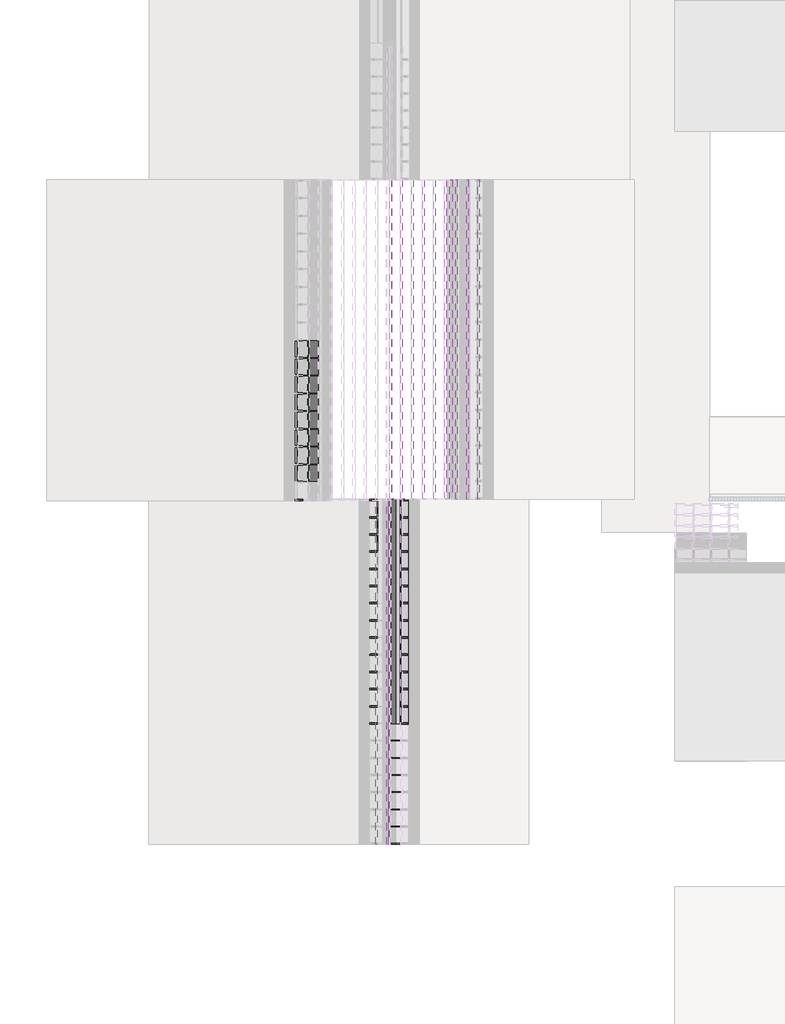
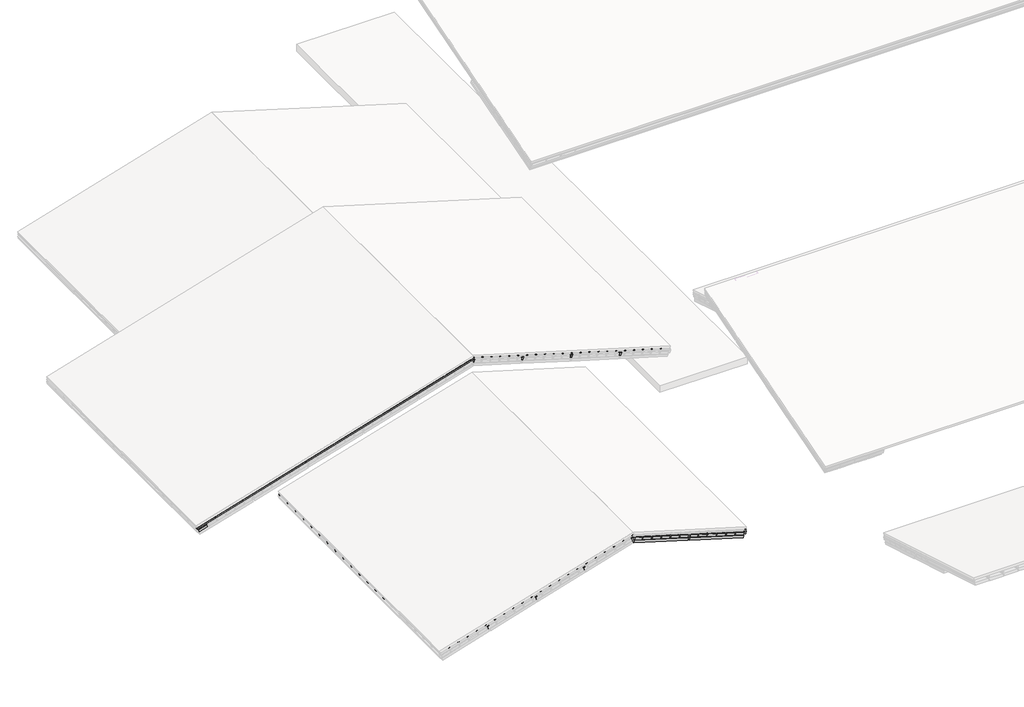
# One storey, part 3 of 57: 82 members, 39 plates.
"""IFC4 building model written with IfcOpenShell, lengths in millimetres."""

from ifc_helpers import new_model, si_unit, origin, place, context, project, spatial, transform, mapped, element, save
from components import rectangular_mullion_a55b3314, rectangular_mullion_570d728c, rectangular_mullion_ac45dcca, rectangular_mullion_e3c31ba7, rectangular_mullion_b5bf8cd6, rectangular_mullion_75f7635b, rectangular_mullion_407ae3eb, rectangular_mullion_b8d70239, rectangular_mullion_caibro_ed0dafb1, rectangular_mullion_caibro_0a25a9c4, rectangular_mullion_caibro_b547574d, rectangular_mullion_caibro_cfc8c254, rectangular_mullion_caibro_4571a72a, empty_system_panel_vazio_568114d9, empty_system_panel_vazio_96ce973a, empty_system_panel_vazio_2a3f5358, empty_system_panel_vazio_2e425c68, empty_system_panel_vazio_b4c02b83, empty_system_panel_vazio_a9f1091a

model = new_model("IFC4")

# Units and contexts
model_context = context("Model", 3, world=origin())
ifc_project = project(units=[si_unit("LENGTHUNIT", "METRE", prefix="MILLI")], contexts=[model_context])

# Site, building, storey
site = spatial("IfcSite", under=ifc_project)
building = spatial("IfcBuilding", under=site)
storey = spatial("IfcBuildingStorey", under=building, Name="Nível 2", Elevation=4100.0)

# Members
placement = place(None, origin())
rectangular_mullion_shape = rectangular_mullion_a55b3314(model_context)
element("IfcMember", 1, ObjectType="Rectangular Mullion : Ripa", at=placement, inside=storey, context=model_context, shape_type="MappedRepresentation", body=[
    mapped(rectangular_mullion_shape, transform((-15339.5650098, 15690.170769, 3155.4065135), x_axis=(0.9578262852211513, 0.0, 0.2873478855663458), y_axis=(0.2873478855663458, 0.0, -0.9578262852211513), z_axis=(0.0, 1.0, 0.0))),
])
element("IfcMember", 2, ObjectType="Rectangular Mullion : Ripa", at=placement, inside=storey, context=model_context, shape_type="MappedRepresentation", body=[
    mapped(rectangular_mullion_shape, transform((-14962.2614909, 15690.170769, 3268.5975692), x_axis=(0.9578262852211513, 0.0, 0.2873478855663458), y_axis=(0.2873478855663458, 0.0, -0.9578262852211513), z_axis=(0.0, 1.0, 0.0))),
])
element("IfcMember", 3, ObjectType="Rectangular Mullion : Ripa", at=placement, inside=storey, context=model_context, shape_type="MappedRepresentation", body=[
    mapped(rectangular_mullion_shape, transform((-14584.957972, 15690.170769, 3381.7886249), x_axis=(0.9578262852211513, 0.0, 0.2873478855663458), y_axis=(0.2873478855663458, 0.0, -0.9578262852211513), z_axis=(0.0, 1.0, 0.0))),
])
element("IfcMember", 4, ObjectType="Rectangular Mullion : Ripa", at=placement, inside=storey, context=model_context, shape_type="MappedRepresentation", body=[
    mapped(rectangular_mullion_shape, transform((-14207.6544531, 15690.170769, 3494.9796806), x_axis=(0.9578262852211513, 0.0, 0.2873478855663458), y_axis=(0.2873478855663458, 0.0, -0.9578262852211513), z_axis=(0.0, 1.0, 0.0))),
])
element("IfcMember", 5, ObjectType="Rectangular Mullion : Ripa", at=placement, inside=storey, context=model_context, shape_type="MappedRepresentation", body=[
    mapped(rectangular_mullion_shape, transform((-13830.3509342, 15690.170769, 3608.1707362), x_axis=(0.9578262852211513, 0.0, 0.2873478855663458), y_axis=(0.2873478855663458, 0.0, -0.9578262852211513), z_axis=(0.0, 1.0, 0.0))),
])
element("IfcMember", 6, ObjectType="Rectangular Mullion : Ripa", at=placement, inside=storey, context=model_context, shape_type="MappedRepresentation", body=[
    mapped(rectangular_mullion_shape, transform((-13453.0474153, 15690.170769, 3721.3617919), x_axis=(0.9578262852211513, 0.0, 0.2873478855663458), y_axis=(0.2873478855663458, 0.0, -0.9578262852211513), z_axis=(0.0, 1.0, 0.0))),
])
element("IfcMember", 7, ObjectType="Rectangular Mullion : Ripa", at=placement, inside=storey, context=model_context, shape_type="MappedRepresentation", body=[
    mapped(rectangular_mullion_shape, transform((-13075.7438964, 15690.170769, 3834.5528476), x_axis=(0.9578262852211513, 0.0, 0.2873478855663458), y_axis=(0.2873478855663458, 0.0, -0.9578262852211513), z_axis=(0.0, 1.0, 0.0))),
])
element("IfcMember", 8, ObjectType="Rectangular Mullion : Ripa", at=placement, inside=storey, context=model_context, shape_type="MappedRepresentation", body=[
    mapped(rectangular_mullion_shape, transform((-12698.4403774, 15690.170769, 3947.7439033), x_axis=(0.9578262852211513, 0.0, 0.2873478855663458), y_axis=(0.2873478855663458, 0.0, -0.9578262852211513), z_axis=(0.0, 1.0, 0.0))),
])
element("IfcMember", 9, ObjectType="Rectangular Mullion : Ripa", at=placement, inside=storey, context=model_context, shape_type="MappedRepresentation", body=[
    mapped(rectangular_mullion_shape, transform((-12321.1368585, 15690.170769, 4060.9349589), x_axis=(0.9578262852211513, 0.0, 0.2873478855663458), y_axis=(0.2873478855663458, 0.0, -0.9578262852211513), z_axis=(0.0, 1.0, 0.0))),
])
element("IfcMember", 10, ObjectType="Rectangular Mullion : Ripa", at=placement, inside=storey, context=model_context, shape_type="MappedRepresentation", body=[
    mapped(rectangular_mullion_shape, transform((-11943.8333396, 15690.170769, 4174.1260146), x_axis=(0.9578262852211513, 0.0, 0.2873478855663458), y_axis=(0.2873478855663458, 0.0, -0.9578262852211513), z_axis=(0.0, 1.0, 0.0))),
])
element("IfcMember", 11, ObjectType="Rectangular Mullion : Ripa", at=placement, inside=storey, context=model_context, shape_type="MappedRepresentation", body=[
    mapped(rectangular_mullion_shape, transform((-11566.5298207, 15690.170769, 4287.3170703), x_axis=(0.9578262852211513, 0.0, 0.2873478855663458), y_axis=(0.2873478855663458, 0.0, -0.9578262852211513), z_axis=(0.0, 1.0, 0.0))),
])
element("IfcMember", 12, ObjectType="Rectangular Mullion : Ripa", at=placement, inside=storey, context=model_context, shape_type="MappedRepresentation", body=[
    mapped(rectangular_mullion_shape, transform((-11189.2263018, 15690.170769, 4400.508126), x_axis=(0.9578262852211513, 0.0, 0.2873478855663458), y_axis=(0.2873478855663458, 0.0, -0.9578262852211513), z_axis=(0.0, 1.0, 0.0))),
])
element("IfcMember", 13, ObjectType="Rectangular Mullion : Ripa", at=placement, inside=storey, context=model_context, shape_type="MappedRepresentation", body=[
    mapped(rectangular_mullion_shape, transform((-10811.9227829, 15690.170769, 4513.6991816), x_axis=(0.9578262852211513, 0.0, 0.2873478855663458), y_axis=(0.2873478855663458, 0.0, -0.9578262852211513), z_axis=(0.0, 1.0, 0.0))),
])
element("IfcMember", 14, ObjectType="Rectangular Mullion : Ripa", at=placement, inside=storey, context=model_context, shape_type="MappedRepresentation", body=[
    mapped(rectangular_mullion_shape, transform((-10434.619264, 15690.170769, 4626.8902373), x_axis=(0.9578262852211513, 0.0, 0.2873478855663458), y_axis=(0.2873478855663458, 0.0, -0.9578262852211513), z_axis=(0.0, 1.0, 0.0))),
])
element("IfcMember", 15, ObjectType="Rectangular Mullion : Ripa", at=placement, inside=storey, context=model_context, shape_type="MappedRepresentation", body=[
    mapped(rectangular_mullion_shape, transform((-10057.3157451, 15690.170769, 4740.081293), x_axis=(0.9578262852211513, 0.0, 0.2873478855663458), y_axis=(0.2873478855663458, 0.0, -0.9578262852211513), z_axis=(0.0, 1.0, 0.0))),
])
element("IfcMember", 16, ObjectType="Rectangular Mullion : Ripa", at=placement, inside=storey, context=model_context, shape_type="MappedRepresentation", body=[
    mapped(rectangular_mullion_shape, transform((-9680.0122261, 15690.170769, 4853.2723487), x_axis=(0.9578262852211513, 0.0, 0.2873478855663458), y_axis=(0.2873478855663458, 0.0, -0.9578262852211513), z_axis=(0.0, 1.0, 0.0))),
])
element("IfcMember", 17, ObjectType="Rectangular Mullion : Ripa", at=placement, inside=storey, context=model_context, shape_type="MappedRepresentation", body=[
    mapped(rectangular_mullion_shape, transform((-9302.7087072, 15690.170769, 4966.4634043), x_axis=(0.9578262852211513, 0.0, 0.2873478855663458), y_axis=(0.2873478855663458, 0.0, -0.9578262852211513), z_axis=(0.0, 1.0, 0.0))),
])
element("IfcMember", 18, ObjectType="Rectangular Mullion : Ripa", at=placement, inside=storey, context=model_context, shape_type="MappedRepresentation", body=[
    mapped(rectangular_mullion_shape, transform((-8925.4051883, 15690.170769, 5079.65446), x_axis=(0.9578262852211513, 0.0, 0.2873478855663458), y_axis=(0.2873478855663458, 0.0, -0.9578262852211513), z_axis=(0.0, 1.0, 0.0))),
])
element("IfcMember", 19, ObjectType="Rectangular Mullion : Ripa", at=placement, inside=storey, context=model_context, shape_type="MappedRepresentation", body=[
    mapped(rectangular_mullion_shape, transform((-8548.1016694, 15690.170769, 5192.8455157), x_axis=(0.9578262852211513, 0.0, 0.2873478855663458), y_axis=(0.2873478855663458, 0.0, -0.9578262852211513), z_axis=(0.0, 1.0, 0.0))),
])
element("IfcMember", 20, ObjectType="Rectangular Mullion : Ripa", at=placement, inside=storey, context=model_context, shape_type="MappedRepresentation", body=[
    mapped(rectangular_mullion_shape, transform((-8170.7981505, 15690.170769, 5306.0365714), x_axis=(0.9578262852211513, 0.0, 0.2873478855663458), y_axis=(0.2873478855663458, 0.0, -0.9578262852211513), z_axis=(0.0, 1.0, 0.0))),
])
element("IfcMember", 21, ObjectType="Rectangular Mullion : Ripa", at=placement, inside=storey, context=model_context, shape_type="MappedRepresentation", body=[
    mapped(rectangular_mullion_shape, transform((-7793.4946316, 15690.170769, 5419.227627), x_axis=(0.9578262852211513, 0.0, 0.2873478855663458), y_axis=(0.2873478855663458, 0.0, -0.9578262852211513), z_axis=(0.0, 1.0, 0.0))),
])
rectangular_mullion_2_shape = rectangular_mullion_570d728c(model_context)
element("IfcMember", 22, ObjectType="Rectangular Mullion : Terça", at=placement, inside=storey, context=model_context, shape_type="MappedRepresentation", body=[
    mapped(rectangular_mullion_2_shape, transform((-7793.4946316, 15690.170769, 5293.9439489), x_axis=(0.9578262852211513, 0.0, 0.2873478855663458), y_axis=(0.2873478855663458, 0.0, -0.9578262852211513), z_axis=(0.0, 1.0, 0.0))),
])
rectangular_mullion_3_shape = rectangular_mullion_ac45dcca(model_context)
element("IfcMember", 23, ObjectType="Rectangular Mullion : Terça", at=placement, inside=storey, context=model_context, shape_type="MappedRepresentation", body=[
    mapped(rectangular_mullion_3_shape, transform((-13757.5761459, 15690.170769, 3504.7194946), x_axis=(0.9578262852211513, 0.0, 0.2873478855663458), y_axis=(0.2873478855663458, 0.0, -0.9578262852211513), z_axis=(0.0, 1.0, 0.0))),
])
element("IfcMember", 24, ObjectType="Rectangular Mullion : Terça", at=placement, inside=storey, context=model_context, shape_type="MappedRepresentation", body=[
    mapped(rectangular_mullion_3_shape, transform((-11779.1272373, 15690.170769, 4098.2541672), x_axis=(0.9578262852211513, 0.0, 0.2873478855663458), y_axis=(0.2873478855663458, 0.0, -0.9578262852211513), z_axis=(0.0, 1.0, 0.0))),
])
element("IfcMember", 25, ObjectType="Rectangular Mullion : Terça", at=placement, inside=storey, context=model_context, shape_type="MappedRepresentation", body=[
    mapped(rectangular_mullion_3_shape, transform((-9800.6783287, 15690.170769, 4691.7888398), x_axis=(0.9578262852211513, 0.0, 0.2873478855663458), y_axis=(0.2873478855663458, 0.0, -0.9578262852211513), z_axis=(0.0, 1.0, 0.0))),
])
rectangular_mullion_4_shape = rectangular_mullion_e3c31ba7(model_context)
element("IfcMember", 26, ObjectType="Rectangular Mullion : Ripa", at=placement, inside=storey, context=model_context, shape_type="MappedRepresentation", body=[
    mapped(rectangular_mullion_4_shape, transform((-3166.9478867, 15690.170769, 4030.3181378), x_axis=(0.9578262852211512, 0.0, -0.2873478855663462), y_axis=(-0.2873478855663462, 0.0, -0.9578262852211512), z_axis=(0.0, 1.0, 0.0))),
])
rectangular_mullion_5_shape = rectangular_mullion_b5bf8cd6(model_context)
element("IfcMember", 27, ObjectType="Rectangular Mullion : Terça", at=placement, inside=storey, context=model_context, shape_type="MappedRepresentation", body=[
    mapped(rectangular_mullion_5_shape, transform((-3166.9478867, 15690.170769, 3905.0344596), x_axis=(0.9578262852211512, 0.0, -0.2873478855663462), y_axis=(-0.2873478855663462, 0.0, -0.9578262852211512), z_axis=(0.0, 1.0, 0.0))),
])
rectangular_mullion_6_shape = rectangular_mullion_75f7635b(model_context)
element("IfcMember", 28, ObjectType="Rectangular Mullion : Terça", at=placement, inside=storey, context=model_context, shape_type="MappedRepresentation", body=[
    mapped(rectangular_mullion_6_shape, transform((-7788.3111843, 15690.170769, 6039.6159441), x_axis=(-0.9578262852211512, 0.0, 0.287347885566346), y_axis=(-0.287347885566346, 0.0, -0.9578262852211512), z_axis=(0.0, -1.0, 0.0))),
])
rectangular_mullion_7_shape = rectangular_mullion_407ae3eb(model_context)
element("IfcMember", 29, ObjectType="Rectangular Mullion : Terça", at=placement, inside=storey, context=model_context, shape_type="MappedRepresentation", body=[
    mapped(rectangular_mullion_7_shape, transform((-1700.5998674, 15690.170769, 4213.302549), x_axis=(-0.9578262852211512, 0.0, 0.287347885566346), y_axis=(-0.287347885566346, 0.0, -0.9578262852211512), z_axis=(0.0, -1.0, 0.0))),
])
element("IfcMember", 30, ObjectType="Rectangular Mullion : Terça", at=placement, inside=storey, context=model_context, shape_type="MappedRepresentation", body=[
    mapped(rectangular_mullion_7_shape, transform((-3720.2587102, 15690.170769, 4819.2002019), x_axis=(-0.9578262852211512, 0.0, 0.287347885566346), y_axis=(-0.287347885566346, 0.0, -0.9578262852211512), z_axis=(0.0, -1.0, 0.0))),
])
element("IfcMember", 31, ObjectType="Rectangular Mullion : Terça", at=placement, inside=storey, context=model_context, shape_type="MappedRepresentation", body=[
    mapped(rectangular_mullion_7_shape, transform((-5739.917553, 15690.170769, 5425.0978547), x_axis=(-0.9578262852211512, 0.0, 0.287347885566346), y_axis=(-0.287347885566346, 0.0, -0.9578262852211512), z_axis=(0.0, -1.0, 0.0))),
])
rectangular_mullion_8_shape = rectangular_mullion_b8d70239(model_context)
element("IfcMember", 32, ObjectType="Rectangular Mullion : Ripa", at=placement, inside=storey, context=model_context, shape_type="MappedRepresentation", body=[
    mapped(rectangular_mullion_8_shape, transform((-67.7436246, 15690.170769, 3848.7293543), x_axis=(-0.9578262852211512, 0.0, 0.287347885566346), y_axis=(-0.287347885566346, 0.0, -0.9578262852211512), z_axis=(0.0, -1.0, 0.0))),
])
element("IfcMember", 33, ObjectType="Rectangular Mullion : Ripa", at=placement, inside=storey, context=model_context, shape_type="MappedRepresentation", body=[
    mapped(rectangular_mullion_8_shape, transform((-435.3896989, 15690.170769, 3959.0231766), x_axis=(-0.9578262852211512, 0.0, 0.287347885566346), y_axis=(-0.287347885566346, 0.0, -0.9578262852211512), z_axis=(0.0, -1.0, 0.0))),
])
element("IfcMember", 34, ObjectType="Rectangular Mullion : Ripa", at=placement, inside=storey, context=model_context, shape_type="MappedRepresentation", body=[
    mapped(rectangular_mullion_8_shape, transform((-803.0357732, 15690.170769, 4069.3169989), x_axis=(-0.9578262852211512, 0.0, 0.287347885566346), y_axis=(-0.287347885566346, 0.0, -0.9578262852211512), z_axis=(0.0, -1.0, 0.0))),
])
element("IfcMember", 35, ObjectType="Rectangular Mullion : Ripa", at=placement, inside=storey, context=model_context, shape_type="MappedRepresentation", body=[
    mapped(rectangular_mullion_8_shape, transform((-1170.6818474, 15690.170769, 4179.6108212), x_axis=(-0.9578262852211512, 0.0, 0.287347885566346), y_axis=(-0.287347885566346, 0.0, -0.9578262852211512), z_axis=(0.0, -1.0, 0.0))),
])
element("IfcMember", 36, ObjectType="Rectangular Mullion : Ripa", at=placement, inside=storey, context=model_context, shape_type="MappedRepresentation", body=[
    mapped(rectangular_mullion_8_shape, transform((-1538.3279217, 15690.170769, 4289.9046434), x_axis=(-0.9578262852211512, 0.0, 0.287347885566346), y_axis=(-0.287347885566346, 0.0, -0.9578262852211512), z_axis=(0.0, -1.0, 0.0))),
])
element("IfcMember", 37, ObjectType="Rectangular Mullion : Ripa", at=placement, inside=storey, context=model_context, shape_type="MappedRepresentation", body=[
    mapped(rectangular_mullion_8_shape, transform((-1905.973996, 15690.170769, 4400.1984657), x_axis=(-0.9578262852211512, 0.0, 0.287347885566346), y_axis=(-0.287347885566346, 0.0, -0.9578262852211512), z_axis=(0.0, -1.0, 0.0))),
])
element("IfcMember", 38, ObjectType="Rectangular Mullion : Ripa", at=placement, inside=storey, context=model_context, shape_type="MappedRepresentation", body=[
    mapped(rectangular_mullion_8_shape, transform((-2273.6200702, 15690.170769, 4510.492288), x_axis=(-0.9578262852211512, 0.0, 0.287347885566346), y_axis=(-0.287347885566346, 0.0, -0.9578262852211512), z_axis=(0.0, -1.0, 0.0))),
])
element("IfcMember", 39, ObjectType="Rectangular Mullion : Ripa", at=placement, inside=storey, context=model_context, shape_type="MappedRepresentation", body=[
    mapped(rectangular_mullion_8_shape, transform((-2641.2661445, 15690.170769, 4620.7861103), x_axis=(-0.9578262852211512, 0.0, 0.287347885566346), y_axis=(-0.287347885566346, 0.0, -0.9578262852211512), z_axis=(0.0, -1.0, 0.0))),
])
element("IfcMember", 40, ObjectType="Rectangular Mullion : Ripa", at=placement, inside=storey, context=model_context, shape_type="MappedRepresentation", body=[
    mapped(rectangular_mullion_8_shape, transform((-3008.9122188, 15690.170769, 4731.0799326), x_axis=(-0.9578262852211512, 0.0, 0.287347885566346), y_axis=(-0.287347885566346, 0.0, -0.9578262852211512), z_axis=(0.0, -1.0, 0.0))),
])
element("IfcMember", 41, ObjectType="Rectangular Mullion : Ripa", at=placement, inside=storey, context=model_context, shape_type="MappedRepresentation", body=[
    mapped(rectangular_mullion_8_shape, transform((-3376.5582931, 15690.170769, 4841.3737548), x_axis=(-0.9578262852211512, 0.0, 0.287347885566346), y_axis=(-0.287347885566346, 0.0, -0.9578262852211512), z_axis=(0.0, -1.0, 0.0))),
])
element("IfcMember", 42, ObjectType="Rectangular Mullion : Ripa", at=placement, inside=storey, context=model_context, shape_type="MappedRepresentation", body=[
    mapped(rectangular_mullion_8_shape, transform((-3744.2043673, 15690.170769, 4951.6675771), x_axis=(-0.9578262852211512, 0.0, 0.287347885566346), y_axis=(-0.287347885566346, 0.0, -0.9578262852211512), z_axis=(0.0, -1.0, 0.0))),
])
element("IfcMember", 43, ObjectType="Rectangular Mullion : Ripa", at=placement, inside=storey, context=model_context, shape_type="MappedRepresentation", body=[
    mapped(rectangular_mullion_8_shape, transform((-4111.8504416, 15690.170769, 5061.9613994), x_axis=(-0.9578262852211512, 0.0, 0.287347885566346), y_axis=(-0.287347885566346, 0.0, -0.9578262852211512), z_axis=(0.0, -1.0, 0.0))),
])
element("IfcMember", 44, ObjectType="Rectangular Mullion : Ripa", at=placement, inside=storey, context=model_context, shape_type="MappedRepresentation", body=[
    mapped(rectangular_mullion_8_shape, transform((-4479.4965159, 15690.170769, 5172.2552217), x_axis=(-0.9578262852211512, 0.0, 0.287347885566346), y_axis=(-0.287347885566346, 0.0, -0.9578262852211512), z_axis=(0.0, -1.0, 0.0))),
])
element("IfcMember", 45, ObjectType="Rectangular Mullion : Ripa", at=placement, inside=storey, context=model_context, shape_type="MappedRepresentation", body=[
    mapped(rectangular_mullion_8_shape, transform((-4847.1425901, 15690.170769, 5282.549044), x_axis=(-0.9578262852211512, 0.0, 0.287347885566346), y_axis=(-0.287347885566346, 0.0, -0.9578262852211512), z_axis=(0.0, -1.0, 0.0))),
])
element("IfcMember", 46, ObjectType="Rectangular Mullion : Ripa", at=placement, inside=storey, context=model_context, shape_type="MappedRepresentation", body=[
    mapped(rectangular_mullion_8_shape, transform((-5214.7886644, 15690.170769, 5392.8428662), x_axis=(-0.9578262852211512, 0.0, 0.287347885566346), y_axis=(-0.287347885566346, 0.0, -0.9578262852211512), z_axis=(0.0, -1.0, 0.0))),
])
element("IfcMember", 47, ObjectType="Rectangular Mullion : Ripa", at=placement, inside=storey, context=model_context, shape_type="MappedRepresentation", body=[
    mapped(rectangular_mullion_8_shape, transform((-5582.4347387, 15690.170769, 5503.1366885), x_axis=(-0.9578262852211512, 0.0, 0.287347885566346), y_axis=(-0.287347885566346, 0.0, -0.9578262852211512), z_axis=(0.0, -1.0, 0.0))),
])
element("IfcMember", 48, ObjectType="Rectangular Mullion : Ripa", at=placement, inside=storey, context=model_context, shape_type="MappedRepresentation", body=[
    mapped(rectangular_mullion_8_shape, transform((-5950.0808129, 15690.170769, 5613.4305108), x_axis=(-0.9578262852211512, 0.0, 0.287347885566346), y_axis=(-0.287347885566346, 0.0, -0.9578262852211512), z_axis=(0.0, -1.0, 0.0))),
])
element("IfcMember", 49, ObjectType="Rectangular Mullion : Ripa", at=placement, inside=storey, context=model_context, shape_type="MappedRepresentation", body=[
    mapped(rectangular_mullion_8_shape, transform((-6317.7268872, 15690.170769, 5723.7243331), x_axis=(-0.9578262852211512, 0.0, 0.287347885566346), y_axis=(-0.287347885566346, 0.0, -0.9578262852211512), z_axis=(0.0, -1.0, 0.0))),
])
element("IfcMember", 50, ObjectType="Rectangular Mullion : Ripa", at=placement, inside=storey, context=model_context, shape_type="MappedRepresentation", body=[
    mapped(rectangular_mullion_8_shape, transform((-6685.3729615, 15690.170769, 5834.0181554), x_axis=(-0.9578262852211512, 0.0, 0.287347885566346), y_axis=(-0.287347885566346, 0.0, -0.9578262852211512), z_axis=(0.0, -1.0, 0.0))),
])
element("IfcMember", 51, ObjectType="Rectangular Mullion : Ripa", at=placement, inside=storey, context=model_context, shape_type="MappedRepresentation", body=[
    mapped(rectangular_mullion_8_shape, transform((-7053.0190358, 15690.170769, 5944.3119777), x_axis=(-0.9578262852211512, 0.0, 0.287347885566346), y_axis=(-0.287347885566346, 0.0, -0.9578262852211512), z_axis=(0.0, -1.0, 0.0))),
])
element("IfcMember", 52, ObjectType="Rectangular Mullion : Ripa", at=placement, inside=storey, context=model_context, shape_type="MappedRepresentation", body=[
    mapped(rectangular_mullion_8_shape, transform((-7420.66511, 15690.170769, 6054.6057999), x_axis=(-0.9578262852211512, 0.0, 0.287347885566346), y_axis=(-0.287347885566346, 0.0, -0.9578262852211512), z_axis=(0.0, -1.0, 0.0))),
])
element("IfcMember", 53, ObjectType="Rectangular Mullion : Ripa", at=placement, inside=storey, context=model_context, shape_type="MappedRepresentation", body=[
    mapped(rectangular_mullion_8_shape, transform((-7788.3111843, 15690.170769, 6164.8996222), x_axis=(-0.9578262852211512, 0.0, 0.287347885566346), y_axis=(-0.287347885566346, 0.0, -0.9578262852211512), z_axis=(0.0, -1.0, 0.0))),
])
rectangular_mullion_caibro_shape = rectangular_mullion_caibro_ed0dafb1(model_context)
element("IfcMember", 54, ObjectType="Rectangular Mullion : Caibro", at=placement, inside=storey, context=model_context, shape_type="MappedRepresentation", body=[
    mapped(rectangular_mullion_caibro_shape, transform((-15764.759843, 15690.170769, 3027.8480636), x_axis=(0.0, 1.0, 0.0), y_axis=(0.2873478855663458, 0.0, -0.9578262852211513), z_axis=(-0.9578262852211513, 0.0, -0.2873478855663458))),
])
rectangular_mullion_caibro_2_shape = rectangular_mullion_caibro_0a25a9c4(model_context)
element("IfcMember", 55, ObjectType="Rectangular Mullion : Caibro", at=placement, inside=storey, context=model_context, shape_type="MappedRepresentation", body=[
    mapped(rectangular_mullion_caibro_2_shape, transform((-7793.4946316, 15092.6769158, 5419.227627), x_axis=(0.0, -1.0, 0.0), y_axis=(0.2873478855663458, 0.0, -0.9578262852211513), z_axis=(0.9578262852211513, 0.0, 0.2873478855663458))),
])
element("IfcMember", 56, ObjectType="Rectangular Mullion : Caibro", at=placement, inside=storey, context=model_context, shape_type="MappedRepresentation", body=[
    mapped(rectangular_mullion_caibro_2_shape, transform((-7793.4946316, 14520.1830629, 5419.227627), x_axis=(0.0, -1.0, 0.0), y_axis=(0.2873478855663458, 0.0, -0.9578262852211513), z_axis=(0.9578262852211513, 0.0, 0.2873478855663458))),
])
element("IfcMember", 57, ObjectType="Rectangular Mullion : Caibro", at=placement, inside=storey, context=model_context, shape_type="MappedRepresentation", body=[
    mapped(rectangular_mullion_caibro_2_shape, transform((-7793.4946316, 13947.6892101, 5419.227627), x_axis=(0.0, -1.0, 0.0), y_axis=(0.2873478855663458, 0.0, -0.9578262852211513), z_axis=(0.9578262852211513, 0.0, 0.2873478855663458))),
])
element("IfcMember", 58, ObjectType="Rectangular Mullion : Caibro", at=placement, inside=storey, context=model_context, shape_type="MappedRepresentation", body=[
    mapped(rectangular_mullion_caibro_2_shape, transform((-7793.4946316, 13375.1953572, 5419.227627), x_axis=(0.0, -1.0, 0.0), y_axis=(0.2873478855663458, 0.0, -0.9578262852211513), z_axis=(0.9578262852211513, 0.0, 0.2873478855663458))),
])
element("IfcMember", 59, ObjectType="Rectangular Mullion : Caibro", at=placement, inside=storey, context=model_context, shape_type="MappedRepresentation", body=[
    mapped(rectangular_mullion_caibro_2_shape, transform((-7793.4946316, 12802.7015043, 5419.227627), x_axis=(0.0, -1.0, 0.0), y_axis=(0.28734788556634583, 0.0, -0.9578262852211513), z_axis=(0.9578262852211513, 0.0, 0.28734788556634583))),
])
element("IfcMember", 60, ObjectType="Rectangular Mullion : Caibro", at=placement, inside=storey, context=model_context, shape_type="MappedRepresentation", body=[
    mapped(rectangular_mullion_caibro_2_shape, transform((-7793.4946316, 12230.2076515, 5419.227627), x_axis=(0.0, -1.0, 0.0), y_axis=(0.28734788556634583, 0.0, -0.9578262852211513), z_axis=(0.9578262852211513, 0.0, 0.28734788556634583))),
])
element("IfcMember", 61, ObjectType="Rectangular Mullion : Caibro", at=placement, inside=storey, context=model_context, shape_type="MappedRepresentation", body=[
    mapped(rectangular_mullion_caibro_2_shape, transform((-7793.4946316, 11657.7137986, 5419.227627), x_axis=(0.0, -1.0, 0.0), y_axis=(0.28734788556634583, 0.0, -0.9578262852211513), z_axis=(0.9578262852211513, 0.0, 0.28734788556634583))),
])
element("IfcMember", 62, ObjectType="Rectangular Mullion : Caibro", at=placement, inside=storey, context=model_context, shape_type="MappedRepresentation", body=[
    mapped(rectangular_mullion_caibro_2_shape, transform((-7793.4946316, 11085.2199457, 5419.227627), x_axis=(0.0, -1.0, 0.0), y_axis=(0.28734788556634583, 0.0, -0.9578262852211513), z_axis=(0.9578262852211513, 0.0, 0.28734788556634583))),
])
element("IfcMember", 63, ObjectType="Rectangular Mullion : Caibro", at=placement, inside=storey, context=model_context, shape_type="MappedRepresentation", body=[
    mapped(rectangular_mullion_caibro_2_shape, transform((-7793.4946316, 10512.7260928, 5419.227627), x_axis=(0.0, -1.0, 0.0), y_axis=(0.28734788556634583, 0.0, -0.9578262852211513), z_axis=(0.9578262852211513, 0.0, 0.28734788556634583))),
])
element("IfcMember", 64, ObjectType="Rectangular Mullion : Caibro", at=placement, inside=storey, context=model_context, shape_type="MappedRepresentation", body=[
    mapped(rectangular_mullion_caibro_2_shape, transform((-7793.4946316, 9940.23224, 5419.227627), x_axis=(0.0, -1.0, 0.0), y_axis=(0.28734788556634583, 0.0, -0.9578262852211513), z_axis=(0.9578262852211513, 0.0, 0.28734788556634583))),
])
element("IfcMember", 65, ObjectType="Rectangular Mullion : Caibro", at=placement, inside=storey, context=model_context, shape_type="MappedRepresentation", body=[
    mapped(rectangular_mullion_caibro_2_shape, transform((-7793.4946316, 9367.7383871, 5419.227627), x_axis=(0.0, -1.0, 0.0), y_axis=(0.28734788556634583, 0.0, -0.9578262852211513), z_axis=(0.9578262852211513, 0.0, 0.28734788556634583))),
])
element("IfcMember", 66, ObjectType="Rectangular Mullion : Caibro", at=placement, inside=storey, context=model_context, shape_type="MappedRepresentation", body=[
    mapped(rectangular_mullion_caibro_2_shape, transform((-7793.4946316, 8795.2445342, 5419.227627), x_axis=(0.0, -1.0, 0.0), y_axis=(0.28734788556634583, 0.0, -0.9578262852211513), z_axis=(0.9578262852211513, 0.0, 0.28734788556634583))),
])
element("IfcMember", 67, ObjectType="Rectangular Mullion : Caibro", at=placement, inside=storey, context=model_context, shape_type="MappedRepresentation", body=[
    mapped(rectangular_mullion_caibro_2_shape, transform((-7793.4946316, 8222.7506814, 5419.227627), x_axis=(0.0, -1.0, 0.0), y_axis=(0.28734788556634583, 0.0, -0.9578262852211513), z_axis=(0.9578262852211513, 0.0, 0.28734788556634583))),
])
rectangular_mullion_caibro_3_shape = rectangular_mullion_caibro_b547574d(model_context)
element("IfcMember", 68, ObjectType="Rectangular Mullion : Caibro", at=placement, inside=storey, context=model_context, shape_type="MappedRepresentation", body=[
    mapped(rectangular_mullion_caibro_3_shape, transform((-7796.6461843, 15690.170769, 5419.227627), x_axis=(0.0, 1.0, 0.0), y_axis=(-0.28734788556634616, 0.0, -0.9578262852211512), z_axis=(-0.9578262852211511, 0.0, 0.2873478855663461))),
])
rectangular_mullion_caibro_4_shape = rectangular_mullion_caibro_cfc8c254(model_context)
element("IfcMember", 69, ObjectType="Rectangular Mullion : Caibro", at=placement, inside=storey, context=model_context, shape_type="MappedRepresentation", body=[
    mapped(rectangular_mullion_caibro_4_shape, transform((-7796.6461843, 8222.9195544, 5419.227627), x_axis=(0.0, 1.0, 0.0), y_axis=(-0.2873478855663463, 0.0, -0.9578262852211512), z_axis=(-0.9578262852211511, 0.0, 0.2873478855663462))),
])
element("IfcMember", 70, ObjectType="Rectangular Mullion : Caibro", at=placement, inside=storey, context=model_context, shape_type="MappedRepresentation", body=[
    mapped(rectangular_mullion_caibro_4_shape, transform((-7796.6461843, 8795.400417, 5419.227627), x_axis=(0.0, 1.0, 0.0), y_axis=(-0.2873478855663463, 0.0, -0.9578262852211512), z_axis=(-0.9578262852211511, 0.0, 0.2873478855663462))),
])
element("IfcMember", 71, ObjectType="Rectangular Mullion : Caibro", at=placement, inside=storey, context=model_context, shape_type="MappedRepresentation", body=[
    mapped(rectangular_mullion_caibro_4_shape, transform((-7796.6461843, 9367.8812797, 5419.227627), x_axis=(0.0, 1.0, 0.0), y_axis=(-0.2873478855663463, 0.0, -0.9578262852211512), z_axis=(-0.9578262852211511, 0.0, 0.2873478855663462))),
])
element("IfcMember", 72, ObjectType="Rectangular Mullion : Caibro", at=placement, inside=storey, context=model_context, shape_type="MappedRepresentation", body=[
    mapped(rectangular_mullion_caibro_4_shape, transform((-7796.6461843, 9940.3621423, 5419.227627), x_axis=(0.0, 1.0, 0.0), y_axis=(-0.2873478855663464, 0.0, -0.9578262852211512), z_axis=(-0.9578262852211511, 0.0, 0.28734788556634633))),
])
element("IfcMember", 73, ObjectType="Rectangular Mullion : Caibro", at=placement, inside=storey, context=model_context, shape_type="MappedRepresentation", body=[
    mapped(rectangular_mullion_caibro_4_shape, transform((-7796.6461843, 10512.8430049, 5419.227627), x_axis=(0.0, 1.0, 0.0), y_axis=(-0.2873478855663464, 0.0, -0.9578262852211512), z_axis=(-0.9578262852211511, 0.0, 0.28734788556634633))),
])
element("IfcMember", 74, ObjectType="Rectangular Mullion : Caibro", at=placement, inside=storey, context=model_context, shape_type="MappedRepresentation", body=[
    mapped(rectangular_mullion_caibro_4_shape, transform((-7796.6461843, 11085.3238676, 5419.227627), x_axis=(0.0, 1.0, 0.0), y_axis=(-0.2873478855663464, 0.0, -0.9578262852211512), z_axis=(-0.9578262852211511, 0.0, 0.28734788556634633))),
])
element("IfcMember", 75, ObjectType="Rectangular Mullion : Caibro", at=placement, inside=storey, context=model_context, shape_type="MappedRepresentation", body=[
    mapped(rectangular_mullion_caibro_4_shape, transform((-7796.6461843, 11657.8047302, 5419.227627), x_axis=(0.0, 1.0, 0.0), y_axis=(-0.2873478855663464, 0.0, -0.9578262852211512), z_axis=(-0.9578262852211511, 0.0, 0.28734788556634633))),
])
element("IfcMember", 76, ObjectType="Rectangular Mullion : Caibro", at=placement, inside=storey, context=model_context, shape_type="MappedRepresentation", body=[
    mapped(rectangular_mullion_caibro_4_shape, transform((-7796.6461843, 12230.2855929, 5419.227627), x_axis=(0.0, 1.0, 0.0), y_axis=(-0.28734788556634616, 0.0, -0.9578262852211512), z_axis=(-0.9578262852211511, 0.0, 0.2873478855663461))),
])
element("IfcMember", 77, ObjectType="Rectangular Mullion : Caibro", at=placement, inside=storey, context=model_context, shape_type="MappedRepresentation", body=[
    mapped(rectangular_mullion_caibro_4_shape, transform((-7796.6461843, 12802.7664555, 5419.227627), x_axis=(0.0, 1.0, 0.0), y_axis=(-0.28734788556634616, 0.0, -0.9578262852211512), z_axis=(-0.9578262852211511, 0.0, 0.2873478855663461))),
])
element("IfcMember", 78, ObjectType="Rectangular Mullion : Caibro", at=placement, inside=storey, context=model_context, shape_type="MappedRepresentation", body=[
    mapped(rectangular_mullion_caibro_4_shape, transform((-7796.6461843, 13375.2473181, 5419.227627), x_axis=(0.0, 1.0, 0.0), y_axis=(-0.28734788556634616, 0.0, -0.9578262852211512), z_axis=(-0.9578262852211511, 0.0, 0.2873478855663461))),
])
element("IfcMember", 79, ObjectType="Rectangular Mullion : Caibro", at=placement, inside=storey, context=model_context, shape_type="MappedRepresentation", body=[
    mapped(rectangular_mullion_caibro_4_shape, transform((-7796.6461843, 13947.7281808, 5419.227627), x_axis=(0.0, 1.0, 0.0), y_axis=(-0.28734788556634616, 0.0, -0.9578262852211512), z_axis=(-0.9578262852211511, 0.0, 0.2873478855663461))),
])
element("IfcMember", 80, ObjectType="Rectangular Mullion : Caibro", at=placement, inside=storey, context=model_context, shape_type="MappedRepresentation", body=[
    mapped(rectangular_mullion_caibro_4_shape, transform((-7796.6461843, 14520.2090434, 5419.227627), x_axis=(0.0, 1.0, 0.0), y_axis=(-0.28734788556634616, 0.0, -0.9578262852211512), z_axis=(-0.9578262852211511, 0.0, 0.2873478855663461))),
])
element("IfcMember", 81, ObjectType="Rectangular Mullion : Caibro", at=placement, inside=storey, context=model_context, shape_type="MappedRepresentation", body=[
    mapped(rectangular_mullion_caibro_4_shape, transform((-7796.6461843, 15092.689906, 5419.227627), x_axis=(0.0, 1.0, 0.0), y_axis=(-0.28734788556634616, 0.0, -0.9578262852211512), z_axis=(-0.9578262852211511, 0.0, 0.2873478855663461))),
])
rectangular_mullion_caibro_5_shape = rectangular_mullion_caibro_4571a72a(model_context)
element("IfcMember", 82, ObjectType="Rectangular Mullion : Caibro", at=placement, inside=storey, context=model_context, shape_type="MappedRepresentation", body=[
    mapped(rectangular_mullion_caibro_5_shape, transform((-7788.3111843, 15650.3023843, 6164.762404), x_axis=(0.0, -1.0, 0.0), y_axis=(0.2873478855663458, 0.0, -0.9578262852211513), z_axis=(0.9578262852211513, 0.0, 0.2873478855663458))),
])

# Plates
empty_system_panel_vazio_shape = empty_system_panel_vazio_568114d9(model_context)
element("IfcPlate", 83, ObjectType="Empty System Panel : Vazio", at=placement, inside=storey, context=model_context, shape_type="MappedRepresentation", body=[
    mapped(empty_system_panel_vazio_shape, transform((-15764.759843, 15378.9238424, 3027.8480636), x_axis=(0.0, -1.0, 0.0), y_axis=(0.2873478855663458, 0.0, -0.9578262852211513), z_axis=(0.9578262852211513, 0.0, 0.2873478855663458))),
])
element("IfcPlate", 84, ObjectType="Empty System Panel : Vazio", at=placement, inside=storey, context=model_context, shape_type="MappedRepresentation", body=[
    mapped(empty_system_panel_vazio_shape, transform((-15764.759843, 14806.4299894, 3027.8480636), x_axis=(0.0, -1.0, 0.0), y_axis=(0.2873478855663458, 0.0, -0.9578262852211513), z_axis=(0.9578262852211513, 0.0, 0.2873478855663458))),
])
element("IfcPlate", 85, ObjectType="Empty System Panel : Vazio", at=placement, inside=storey, context=model_context, shape_type="MappedRepresentation", body=[
    mapped(empty_system_panel_vazio_shape, transform((-15764.759843, 14233.9361365, 3027.8480636), x_axis=(0.0, -1.0, 0.0), y_axis=(0.2873478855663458, 0.0, -0.9578262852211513), z_axis=(0.9578262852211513, 0.0, 0.2873478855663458))),
])
empty_system_panel_vazio_2_shape = empty_system_panel_vazio_96ce973a(model_context)
element("IfcPlate", 86, ObjectType="Empty System Panel : Vazio", at=placement, inside=storey, context=model_context, shape_type="MappedRepresentation", body=[
    mapped(empty_system_panel_vazio_2_shape, transform((-3214.839201, 9940.3621423, 4044.685532), x_axis=(0.0, 1.0, 0.0), y_axis=(-0.2873478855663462, 0.0, -0.9578262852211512), z_axis=(-0.9578262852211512, 0.0, 0.2873478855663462))),
])
element("IfcPlate", 87, ObjectType="Empty System Panel : Vazio", at=placement, inside=storey, context=model_context, shape_type="MappedRepresentation", body=[
    mapped(empty_system_panel_vazio_2_shape, transform((-3596.6564496, 9940.3621423, 4159.2307066), x_axis=(0.0, 1.0, 0.0), y_axis=(-0.2873478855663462, 0.0, -0.9578262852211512), z_axis=(-0.9578262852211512, 0.0, 0.2873478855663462))),
])
element("IfcPlate", 88, ObjectType="Empty System Panel : Vazio", at=placement, inside=storey, context=model_context, shape_type="MappedRepresentation", body=[
    mapped(empty_system_panel_vazio_2_shape, transform((-3978.4736982, 9940.3621423, 4273.7758812), x_axis=(0.0, 1.0, 0.0), y_axis=(-0.2873478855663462, 0.0, -0.9578262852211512), z_axis=(-0.9578262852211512, 0.0, 0.2873478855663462))),
])
element("IfcPlate", 89, ObjectType="Empty System Panel : Vazio", at=placement, inside=storey, context=model_context, shape_type="MappedRepresentation", body=[
    mapped(empty_system_panel_vazio_2_shape, transform((-4360.2909468, 9940.3621423, 4388.3210558), x_axis=(0.0, 1.0, 0.0), y_axis=(-0.2873478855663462, 0.0, -0.9578262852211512), z_axis=(-0.9578262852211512, 0.0, 0.2873478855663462))),
])
element("IfcPlate", 90, ObjectType="Empty System Panel : Vazio", at=placement, inside=storey, context=model_context, shape_type="MappedRepresentation", body=[
    mapped(empty_system_panel_vazio_2_shape, transform((-4742.1081954, 9940.3621423, 4502.8662304), x_axis=(0.0, 1.0, 0.0), y_axis=(-0.2873478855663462, 0.0, -0.9578262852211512), z_axis=(-0.9578262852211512, 0.0, 0.2873478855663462))),
])
element("IfcPlate", 91, ObjectType="Empty System Panel : Vazio", at=placement, inside=storey, context=model_context, shape_type="MappedRepresentation", body=[
    mapped(empty_system_panel_vazio_2_shape, transform((-5123.925444, 9940.3621423, 4617.4114049), x_axis=(0.0, 1.0, 0.0), y_axis=(-0.2873478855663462, 0.0, -0.9578262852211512), z_axis=(-0.9578262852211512, 0.0, 0.2873478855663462))),
])
element("IfcPlate", 92, ObjectType="Empty System Panel : Vazio", at=placement, inside=storey, context=model_context, shape_type="MappedRepresentation", body=[
    mapped(empty_system_panel_vazio_2_shape, transform((-5505.7426926, 9940.3621423, 4731.9565795), x_axis=(0.0, 1.0, 0.0), y_axis=(-0.2873478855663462, 0.0, -0.9578262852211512), z_axis=(-0.9578262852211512, 0.0, 0.2873478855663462))),
])
element("IfcPlate", 93, ObjectType="Empty System Panel : Vazio", at=placement, inside=storey, context=model_context, shape_type="MappedRepresentation", body=[
    mapped(empty_system_panel_vazio_2_shape, transform((-5887.5599412, 9940.3621423, 4846.5017541), x_axis=(0.0, 1.0, 0.0), y_axis=(-0.2873478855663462, 0.0, -0.9578262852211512), z_axis=(-0.9578262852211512, 0.0, 0.2873478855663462))),
])
element("IfcPlate", 94, ObjectType="Empty System Panel : Vazio", at=placement, inside=storey, context=model_context, shape_type="MappedRepresentation", body=[
    mapped(empty_system_panel_vazio_2_shape, transform((-6269.3771899, 9940.3621423, 4961.0469287), x_axis=(0.0, 1.0, 0.0), y_axis=(-0.2873478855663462, 0.0, -0.9578262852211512), z_axis=(-0.9578262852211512, 0.0, 0.2873478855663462))),
])
element("IfcPlate", 95, ObjectType="Empty System Panel : Vazio", at=placement, inside=storey, context=model_context, shape_type="MappedRepresentation", body=[
    mapped(empty_system_panel_vazio_2_shape, transform((-6651.1944385, 9940.3621423, 5075.5921033), x_axis=(0.0, 1.0, 0.0), y_axis=(-0.2873478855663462, 0.0, -0.9578262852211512), z_axis=(-0.9578262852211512, 0.0, 0.2873478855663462))),
])
element("IfcPlate", 96, ObjectType="Empty System Panel : Vazio", at=placement, inside=storey, context=model_context, shape_type="MappedRepresentation", body=[
    mapped(empty_system_panel_vazio_2_shape, transform((-7033.0116871, 9940.3621423, 5190.1372779), x_axis=(0.0, 1.0, 0.0), y_axis=(-0.2873478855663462, 0.0, -0.9578262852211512), z_axis=(-0.9578262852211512, 0.0, 0.2873478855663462))),
])
element("IfcPlate", 97, ObjectType="Empty System Panel : Vazio", at=placement, inside=storey, context=model_context, shape_type="MappedRepresentation", body=[
    mapped(empty_system_panel_vazio_2_shape, transform((-7414.8289357, 9940.3621423, 5304.6824524), x_axis=(0.0, 1.0, 0.0), y_axis=(-0.2873478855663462, 0.0, -0.9578262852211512), z_axis=(-0.9578262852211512, 0.0, 0.2873478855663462))),
])
empty_system_panel_vazio_3_shape = empty_system_panel_vazio_2a3f5358(model_context)
element("IfcPlate", 98, ObjectType="Empty System Panel : Vazio", at=placement, inside=storey, context=model_context, shape_type="MappedRepresentation", body=[
    mapped(empty_system_panel_vazio_3_shape, transform((-3166.9478867, 8509.1599857, 4030.3181378), x_axis=(0.0, 1.0, 0.0), y_axis=(-0.2873478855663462, 0.0, -0.9578262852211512), z_axis=(-0.9578262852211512, 0.0, 0.2873478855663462))),
])
element("IfcPlate", 99, ObjectType="Empty System Panel : Vazio", at=placement, inside=storey, context=model_context, shape_type="MappedRepresentation", body=[
    mapped(empty_system_panel_vazio_3_shape, transform((-3166.9478867, 9081.6408483, 4030.3181378), x_axis=(0.0, 1.0, 0.0), y_axis=(-0.2873478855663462, 0.0, -0.9578262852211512), z_axis=(-0.9578262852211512, 0.0, 0.2873478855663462))),
])
element("IfcPlate", 100, ObjectType="Empty System Panel : Vazio", at=placement, inside=storey, context=model_context, shape_type="MappedRepresentation", body=[
    mapped(empty_system_panel_vazio_3_shape, transform((-3166.9478867, 9654.121711, 4030.3181378), x_axis=(0.0, 1.0, 0.0), y_axis=(-0.2873478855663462, 0.0, -0.9578262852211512), z_axis=(-0.9578262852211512, 0.0, 0.2873478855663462))),
])
element("IfcPlate", 101, ObjectType="Empty System Panel : Vazio", at=placement, inside=storey, context=model_context, shape_type="MappedRepresentation", body=[
    mapped(empty_system_panel_vazio_3_shape, transform((-3166.9478867, 10226.6025736, 4030.3181378), x_axis=(0.0, 1.0, 0.0), y_axis=(-0.2873478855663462, 0.0, -0.9578262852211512), z_axis=(-0.9578262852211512, 0.0, 0.2873478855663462))),
])
element("IfcPlate", 102, ObjectType="Empty System Panel : Vazio", at=placement, inside=storey, context=model_context, shape_type="MappedRepresentation", body=[
    mapped(empty_system_panel_vazio_3_shape, transform((-3166.9478867, 10799.0834363, 4030.3181378), x_axis=(0.0, 1.0, 0.0), y_axis=(-0.2873478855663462, 0.0, -0.9578262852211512), z_axis=(-0.9578262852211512, 0.0, 0.2873478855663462))),
])
element("IfcPlate", 103, ObjectType="Empty System Panel : Vazio", at=placement, inside=storey, context=model_context, shape_type="MappedRepresentation", body=[
    mapped(empty_system_panel_vazio_3_shape, transform((-3166.9478867, 11371.5642989, 4030.3181378), x_axis=(0.0, 1.0, 0.0), y_axis=(-0.2873478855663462, 0.0, -0.9578262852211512), z_axis=(-0.9578262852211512, 0.0, 0.2873478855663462))),
])
element("IfcPlate", 104, ObjectType="Empty System Panel : Vazio", at=placement, inside=storey, context=model_context, shape_type="MappedRepresentation", body=[
    mapped(empty_system_panel_vazio_3_shape, transform((-3166.9478867, 11944.0451615, 4030.3181378), x_axis=(0.0, 1.0, 0.0), y_axis=(-0.2873478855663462, 0.0, -0.9578262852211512), z_axis=(-0.9578262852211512, 0.0, 0.2873478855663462))),
])
element("IfcPlate", 105, ObjectType="Empty System Panel : Vazio", at=placement, inside=storey, context=model_context, shape_type="MappedRepresentation", body=[
    mapped(empty_system_panel_vazio_3_shape, transform((-3166.9478867, 12516.5260242, 4030.3181378), x_axis=(0.0, 1.0, 0.0), y_axis=(-0.2873478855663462, 0.0, -0.9578262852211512), z_axis=(-0.9578262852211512, 0.0, 0.2873478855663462))),
])
element("IfcPlate", 106, ObjectType="Empty System Panel : Vazio", at=placement, inside=storey, context=model_context, shape_type="MappedRepresentation", body=[
    mapped(empty_system_panel_vazio_3_shape, transform((-3166.9478867, 13089.0068868, 4030.3181378), x_axis=(0.0, 1.0, 0.0), y_axis=(-0.2873478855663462, 0.0, -0.9578262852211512), z_axis=(-0.9578262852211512, 0.0, 0.2873478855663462))),
])
element("IfcPlate", 107, ObjectType="Empty System Panel : Vazio", at=placement, inside=storey, context=model_context, shape_type="MappedRepresentation", body=[
    mapped(empty_system_panel_vazio_3_shape, transform((-3166.9478867, 13661.4877494, 4030.3181378), x_axis=(0.0, 1.0, 0.0), y_axis=(-0.2873478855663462, 0.0, -0.9578262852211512), z_axis=(-0.9578262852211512, 0.0, 0.2873478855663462))),
])
element("IfcPlate", 108, ObjectType="Empty System Panel : Vazio", at=placement, inside=storey, context=model_context, shape_type="MappedRepresentation", body=[
    mapped(empty_system_panel_vazio_3_shape, transform((-3166.9478867, 14233.9686121, 4030.3181378), x_axis=(0.0, 1.0, 0.0), y_axis=(-0.2873478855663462, 0.0, -0.9578262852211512), z_axis=(-0.9578262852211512, 0.0, 0.2873478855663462))),
])
element("IfcPlate", 109, ObjectType="Empty System Panel : Vazio", at=placement, inside=storey, context=model_context, shape_type="MappedRepresentation", body=[
    mapped(empty_system_panel_vazio_3_shape, transform((-3166.9478867, 14806.4494747, 4030.3181378), x_axis=(0.0, 1.0, 0.0), y_axis=(-0.2873478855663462, 0.0, -0.9578262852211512), z_axis=(-0.9578262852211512, 0.0, 0.2873478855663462))),
])
element("IfcPlate", 110, ObjectType="Empty System Panel : Vazio", at=placement, inside=storey, context=model_context, shape_type="MappedRepresentation", body=[
    mapped(empty_system_panel_vazio_3_shape, transform((-3166.9478867, 15378.9303375, 4030.3181378), x_axis=(0.0, 1.0, 0.0), y_axis=(-0.2873478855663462, 0.0, -0.9578262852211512), z_axis=(-0.9578262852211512, 0.0, 0.2873478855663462))),
])
empty_system_panel_vazio_4_shape = empty_system_panel_vazio_2e425c68(model_context)
element("IfcPlate", 111, ObjectType="Empty System Panel : Vazio", at=placement, inside=storey, context=model_context, shape_type="MappedRepresentation", body=[
    mapped(empty_system_panel_vazio_4_shape, transform((-3224.4174638, 9940.3621423, 3922.2753328), x_axis=(0.0, 1.0, 0.0), y_axis=(-0.2873478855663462, 0.0, -0.9578262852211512), z_axis=(-0.9578262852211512, 0.0, 0.2873478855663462))),
])
element("IfcPlate", 112, ObjectType="Empty System Panel : Vazio", at=placement, inside=storey, context=model_context, shape_type="MappedRepresentation", body=[
    mapped(empty_system_panel_vazio_4_shape, transform((-5510.5318241, 9940.3621423, 4608.1096408), x_axis=(0.0, 1.0, 0.0), y_axis=(-0.2873478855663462, 0.0, -0.9578262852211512), z_axis=(-0.9578262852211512, 0.0, 0.2873478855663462))),
])
empty_system_panel_vazio_5_shape = empty_system_panel_vazio_b4c02b83(model_context)
element("IfcPlate", 113, ObjectType="Empty System Panel : Vazio", at=placement, inside=storey, context=model_context, shape_type="MappedRepresentation", body=[
    mapped(empty_system_panel_vazio_5_shape, transform((-19121.9007574, 21000.3056264, 2764.685532), x_axis=(0.0, -1.0, 0.0), y_axis=(0.2873478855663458, 0.0, -0.9578262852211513), z_axis=(0.9578262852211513, 0.0, 0.2873478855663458))),
])
empty_system_panel_vazio_6_shape = empty_system_panel_vazio_a9f1091a(model_context)
element("IfcPlate", 114, ObjectType="Empty System Panel : Vazio", at=placement, inside=storey, context=model_context, shape_type="MappedRepresentation", body=[
    mapped(empty_system_panel_vazio_6_shape, transform((-19169.7920717, 20704.4721129, 2750.3181378), x_axis=(0.0, -1.0, 0.0), y_axis=(0.2873478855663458, 0.0, -0.9578262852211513), z_axis=(0.9578262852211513, 0.0, 0.2873478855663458))),
])
element("IfcPlate", 115, ObjectType="Empty System Panel : Vazio", at=placement, inside=storey, context=model_context, shape_type="MappedRepresentation", body=[
    mapped(empty_system_panel_vazio_6_shape, transform((-19169.7920717, 20112.8050861, 2750.3181378), x_axis=(0.0, -1.0, 0.0), y_axis=(0.2873478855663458, 0.0, -0.9578262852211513), z_axis=(0.9578262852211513, 0.0, 0.2873478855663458))),
])
element("IfcPlate", 116, ObjectType="Empty System Panel : Vazio", at=placement, inside=storey, context=model_context, shape_type="MappedRepresentation", body=[
    mapped(empty_system_panel_vazio_6_shape, transform((-19169.7920717, 19521.1380592, 2750.3181378), x_axis=(0.0, -1.0, 0.0), y_axis=(0.2873478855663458, 0.0, -0.9578262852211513), z_axis=(0.9578262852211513, 0.0, 0.2873478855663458))),
])
element("IfcPlate", 117, ObjectType="Empty System Panel : Vazio", at=placement, inside=storey, context=model_context, shape_type="MappedRepresentation", body=[
    mapped(empty_system_panel_vazio_6_shape, transform((-19169.7920717, 18929.4710324, 2750.3181378), x_axis=(0.0, -1.0, 0.0), y_axis=(0.2873478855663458, 0.0, -0.9578262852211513), z_axis=(0.9578262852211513, 0.0, 0.2873478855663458))),
])
element("IfcPlate", 118, ObjectType="Empty System Panel : Vazio", at=placement, inside=storey, context=model_context, shape_type="MappedRepresentation", body=[
    mapped(empty_system_panel_vazio_6_shape, transform((-19169.7920717, 18337.8040055, 2750.3181378), x_axis=(0.0, -1.0, 0.0), y_axis=(0.2873478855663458, 0.0, -0.9578262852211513), z_axis=(0.9578262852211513, 0.0, 0.2873478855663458))),
])
element("IfcPlate", 119, ObjectType="Empty System Panel : Vazio", at=placement, inside=storey, context=model_context, shape_type="MappedRepresentation", body=[
    mapped(empty_system_panel_vazio_6_shape, transform((-19169.7920717, 17746.1369786, 2750.3181378), x_axis=(0.0, -1.0, 0.0), y_axis=(0.2873478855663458, 0.0, -0.9578262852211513), z_axis=(0.9578262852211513, 0.0, 0.2873478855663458))),
])
element("IfcPlate", 120, ObjectType="Empty System Panel : Vazio", at=placement, inside=storey, context=model_context, shape_type="MappedRepresentation", body=[
    mapped(empty_system_panel_vazio_6_shape, transform((-19169.7920717, 17154.4699518, 2750.3181378), x_axis=(0.0, -1.0, 0.0), y_axis=(0.2873478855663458, 0.0, -0.9578262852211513), z_axis=(0.9578262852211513, 0.0, 0.2873478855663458))),
])
element("IfcPlate", 121, ObjectType="Empty System Panel : Vazio", at=placement, inside=storey, context=model_context, shape_type="MappedRepresentation", body=[
    mapped(empty_system_panel_vazio_6_shape, transform((-19169.7920717, 16562.8029249, 2750.3181378), x_axis=(0.0, -1.0, 0.0), y_axis=(0.2873478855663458, 0.0, -0.9578262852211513), z_axis=(0.9578262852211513, 0.0, 0.2873478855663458))),
])

save(model, "model.ifc")
